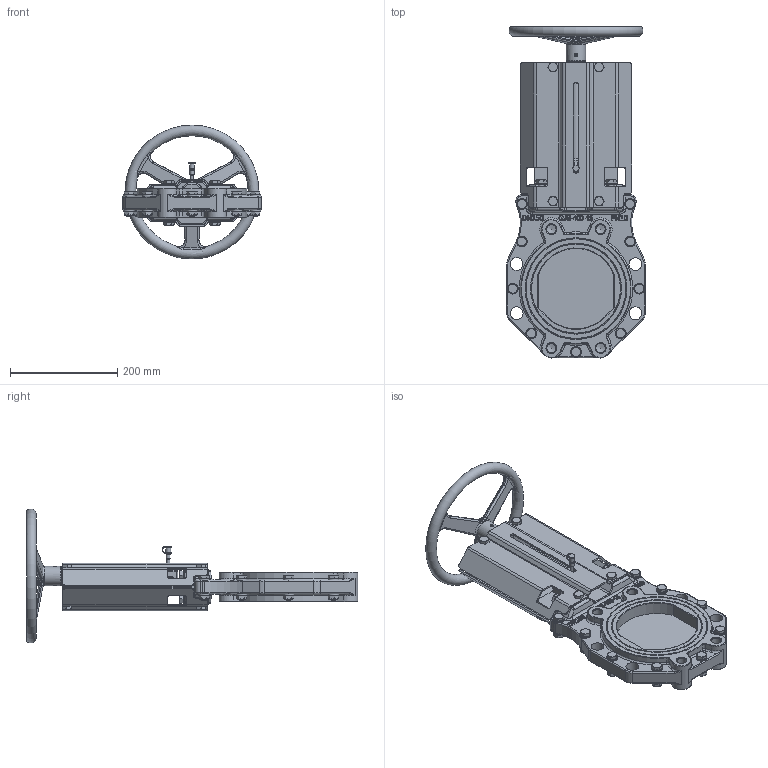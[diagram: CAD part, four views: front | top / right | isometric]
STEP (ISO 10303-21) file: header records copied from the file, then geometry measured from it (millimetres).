
FILE_DESCRIPTION(/* description */ (''),/* implementation_level */ '2;1');
FILE_NAME(/* name */ 'Non-rising stem knife gate valve with handwheel DN150.stp',/* time_stamp */ '2025-04-02T09:40:40+08:00',/* author */ (''),/* organization */ (''),/* preprocessor_version */ 'ST-DEVELOPER v15',/* originating_system */ 'SIEMENS PLM Software NX 10.0',/* authorisation */ '');
FILE_SCHEMA (('AP203_CONFIGURATION_CONTROLLED_3D_DESIGN_OF_MECHANICAL_PARTS_AND_ASSEMBLIES_MIM_LF { 1 0 10303 403 2 1 2}'));
Products named in the file (1): Admi271CEB492f04
Bounding box: 258.73 x 619.37 x 249.96 mm (x, y, z)
Volume: 3276854.3 mm3; surface area: 648781.5 mm2
Topology: 1 solids, 21 shells, 2617 faces, 6455 edges, 4019 vertices
Faces by surface type: plane 1122, cylinder 536, bspline 369, extrusion 215, cone 190, torus 149, sphere 36
Full cylindrical faces by diameter (mm): 6 x3, 8 x1, 9 x1, 9.188 x11, 10 x22, 10.5 x24, 11.5 x1, 15.4 x19, 17.294 x8, 18 x1, 20 x26, 24 x5, 35 x3, 36 x1
Entity records: 82336 total; most frequent: CARTESIAN_POINT 25297, ORIENTED_EDGE 12268, DIRECTION 10129, EDGE_CURVE 6134, VERTEX_POINT 3939, AXIS2_PLACEMENT_3D 3533, EDGE_LOOP 3071, VECTOR 3063
